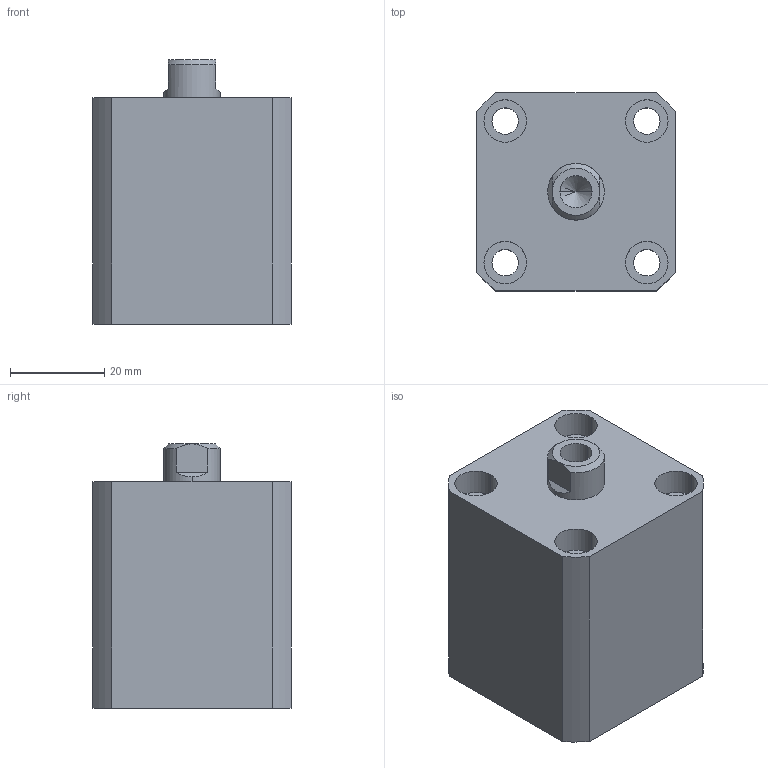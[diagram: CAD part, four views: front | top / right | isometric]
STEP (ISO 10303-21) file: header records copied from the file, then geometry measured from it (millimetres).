
FILE_DESCRIPTION (( 'STEP AP203' ), '1' );
FILE_NAME ('HTB-SDMB20-5N.STEP', '2019-10-08T11:52:30', ( '微软用户' ), ( '微软中国' ), 'SwSTEP 2.0', 'SolidWorks 2012', '' );
FILE_SCHEMA (( 'CONFIG_CONTROL_DESIGN' ));
Length unit declared in the file: millimetre
Products named in the file (3): HTB-SDMB20-5掛极; HTB-SDMB20-5N活塞杆; HTB-SDMB20-5N
Assembly tree (2 placements, depth 2):
  HTB-SDMB20-5N
    HTB-SDMB20-5掛极
    HTB-SDMB20-5N活塞杆
Bounding box: 42 x 42 x 56 mm (x, y, z)
Volume: 75798.9 mm3; surface area: 20414.4 mm2
Topology: 2 solids, 2 shells, 136 faces, 326 edges, 213 vertices
Faces by surface type: plane 64, cylinder 46, bspline 16, torus 6, cone 4
Entity records: 5023 total; most frequent: CARTESIAN_POINT 1570, ORIENTED_EDGE 648, DIRECTION 640, EDGE_CURVE 324, AXIS2_PLACEMENT_3D 231, VERTEX_POINT 213, VECTOR 178, LINE 178
